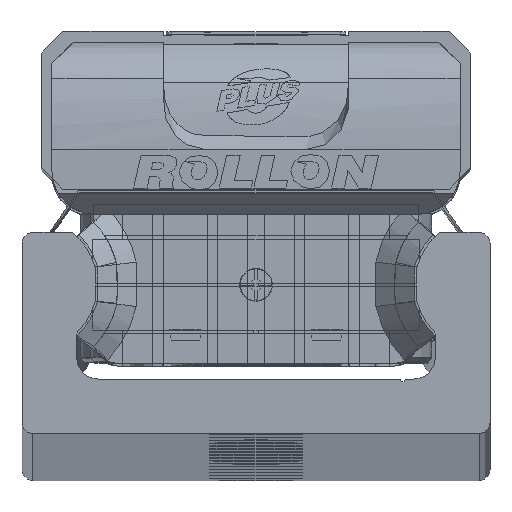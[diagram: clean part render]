
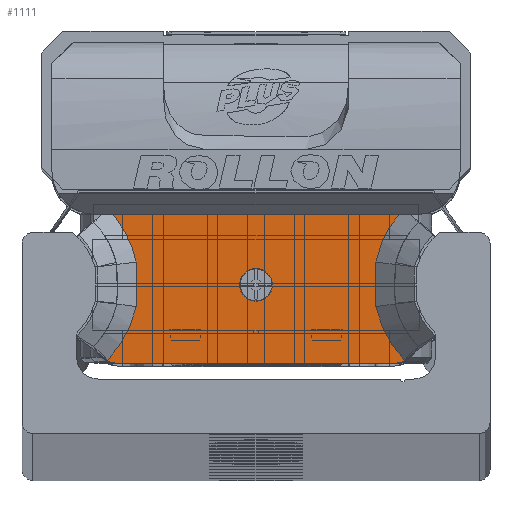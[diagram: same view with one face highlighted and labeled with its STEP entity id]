
A CAD part, top view. The second image highlights one B-rep face of the part: STEP entity #1111.
In plain terms, the highlighted planar face has unit normal (0, 0, 1) as drawn and (0, 0, -1) by its records, which use the part's own axes.
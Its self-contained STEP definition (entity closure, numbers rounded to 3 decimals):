
#1111 = ADVANCED_FACE( '', ( #2788, #2789 ), #2790, .F. );
#2788 = FACE_BOUND( '', #5206, .T. );
#2789 = FACE_OUTER_BOUND( '', #5207, .T. );
#2790 = PLANE( '', #5208 );
#5206 = EDGE_LOOP( '', ( #8347 ) );
#5207 = EDGE_LOOP( '', ( #8348, #8349, #8350, #8351, #8352, #8353, #8354, #8355, #8356, #8357, #8358, #8359 ) );
#5208 = AXIS2_PLACEMENT_3D( '', #8360, #8361, #8362 );
#8347 = ORIENTED_EDGE( '', *, *, #13894, .T. );
#8348 = ORIENTED_EDGE( '', *, *, #13895, .T. );
#8349 = ORIENTED_EDGE( '', *, *, #13837, .F. );
#8350 = ORIENTED_EDGE( '', *, *, #13896, .T. );
#8351 = ORIENTED_EDGE( '', *, *, #13619, .F. );
#8352 = ORIENTED_EDGE( '', *, *, #13816, .T. );
#8353 = ORIENTED_EDGE( '', *, *, #13897, .T. );
#8354 = ORIENTED_EDGE( '', *, *, #13898, .T. );
#8355 = ORIENTED_EDGE( '', *, *, #13899, .T. );
#8356 = ORIENTED_EDGE( '', *, *, #13900, .T. );
#8357 = ORIENTED_EDGE( '', *, *, #13901, .T. );
#8358 = ORIENTED_EDGE( '', *, *, #13902, .T. );
#8359 = ORIENTED_EDGE( '', *, *, #13340, .T. );
#8360 = CARTESIAN_POINT( '', ( 14.9, 7.35, -13.25 ) );
#8361 = DIRECTION( '', ( 0., 0., 1. ) );
#8362 = DIRECTION( '', ( 1., 0., 0. ) );
#13340 = EDGE_CURVE( '', #15762, #15760, #15763, .T. );
#13619 = EDGE_CURVE( '', #16254, #16255, #16256, .T. );
#13816 = EDGE_CURVE( '', #16254, #16587, #16589, .T. );
#13837 = EDGE_CURVE( '', #16621, #15805, #16623, .T. );
#13894 = EDGE_CURVE( '', #16715, #16715, #16716, .T. );
#13895 = EDGE_CURVE( '', #15760, #15805, #16717, .T. );
#13896 = EDGE_CURVE( '', #16621, #16255, #16718, .T. );
#13897 = EDGE_CURVE( '', #16587, #16719, #16720, .T. );
#13898 = EDGE_CURVE( '', #16719, #16721, #16722, .T. );
#13899 = EDGE_CURVE( '', #16721, #16723, #16724, .T. );
#13900 = EDGE_CURVE( '', #16723, #16725, #16726, .T. );
#13901 = EDGE_CURVE( '', #16725, #16727, #16728, .T. );
#13902 = EDGE_CURVE( '', #16727, #15762, #16729, .T. );
#15760 = VERTEX_POINT( '', #19305 );
#15762 = VERTEX_POINT( '', #19308 );
#15763 = B_SPLINE_CURVE_WITH_KNOTS( '', 2, ( #19309, #19310, #19311, #19312, #19313 ), .UNSPECIFIED., .F., .F., ( 3, 2, 3 ), ( 0., 0.5, 1. ), .UNSPECIFIED. );
#15805 = VERTEX_POINT( '', #19367 );
#16254 = VERTEX_POINT( '', #19974 );
#16255 = VERTEX_POINT( '', #19975 );
#16256 = CIRCLE( '', #19976, 2.5 );
#16587 = VERTEX_POINT( '', #20452 );
#16589 = B_SPLINE_CURVE_WITH_KNOTS( '', 1, ( #20455, #20456 ), .UNSPECIFIED., .F., .F., ( 2, 2 ), ( 0., 1. ), .UNSPECIFIED. );
#16621 = VERTEX_POINT( '', #20498 );
#16623 = CIRCLE( '', #20501, 2.5 );
#16715 = VERTEX_POINT( '', #20623 );
#16716 = CIRCLE( '', #20624, 1.5 );
#16717 = B_SPLINE_CURVE_WITH_KNOTS( '', 1, ( #20625, #20626 ), .UNSPECIFIED., .F., .F., ( 2, 2 ), ( 0., 1. ), .UNSPECIFIED. );
#16718 = LINE( '', #20627, #20628 );
#16719 = VERTEX_POINT( '', #20629 );
#16720 = B_SPLINE_CURVE_WITH_KNOTS( '', 2, ( #20630, #20631, #20632, #20633, #20634 ), .UNSPECIFIED., .F., .F., ( 3, 2, 3 ), ( 0., 0.5, 1. ), .UNSPECIFIED. );
#16721 = VERTEX_POINT( '', #20635 );
#16722 = B_SPLINE_CURVE_WITH_KNOTS( '', 2, ( #20636, #20637, #20638 ), .UNSPECIFIED., .F., .F., ( 3, 3 ), ( 0., 1. ), .UNSPECIFIED. );
#16723 = VERTEX_POINT( '', #20639 );
#16724 = B_SPLINE_CURVE_WITH_KNOTS( '', 2, ( #20640, #20641, #20642, #20643, #20644 ), .UNSPECIFIED., .F., .F., ( 3, 2, 3 ), ( 0., 0.5, 0.868 ), .UNSPECIFIED. );
#16725 = VERTEX_POINT( '', #20645 );
#16726 = LINE( '', #20646, #20647 );
#16727 = VERTEX_POINT( '', #20648 );
#16728 = B_SPLINE_CURVE_WITH_KNOTS( '', 2, ( #20649, #20650, #20651, #20652, #20653 ), .UNSPECIFIED., .F., .F., ( 3, 2, 3 ), ( 0.133, 0.5, 1. ), .UNSPECIFIED. );
#16729 = B_SPLINE_CURVE_WITH_KNOTS( '', 2, ( #20654, #20655, #20656 ), .UNSPECIFIED., .F., .F., ( 3, 3 ), ( 0., 1. ), .UNSPECIFIED. );
#19305 = CARTESIAN_POINT( '', ( 13.628, -6.965, -13.25 ) );
#19308 = CARTESIAN_POINT( '', ( 11.012, -2.045, -13.25 ) );
#19309 = CARTESIAN_POINT( '', ( 11.012, -2.045, -13.25 ) );
#19310 = CARTESIAN_POINT( '', ( 11.301, -3.43, -13.25 ) );
#19311 = CARTESIAN_POINT( '', ( 11.972, -4.69, -13.25 ) );
#19312 = CARTESIAN_POINT( '', ( 12.642, -5.95, -13.25 ) );
#19313 = CARTESIAN_POINT( '', ( 13.628, -6.965, -13.25 ) );
#19367 = CARTESIAN_POINT( '', ( 14.906, -5.717, -13.25 ) );
#19974 = CARTESIAN_POINT( '', ( -14.904, -5.718, -13.25 ) );
#19975 = CARTESIAN_POINT( '', ( -12.58, -7.3, -13.25 ) );
#19976 = AXIS2_PLACEMENT_3D( '', #24437, #24438, #24439 );
#20452 = CARTESIAN_POINT( '', ( -13.628, -6.965, -13.25 ) );
#20455 = CARTESIAN_POINT( '', ( -14.915, -5.713, -13.25 ) );
#20456 = CARTESIAN_POINT( '', ( -13.628, -6.965, -13.25 ) );
#20498 = CARTESIAN_POINT( '', ( 12.58, -7.3, -13.25 ) );
#20501 = AXIS2_PLACEMENT_3D( '', #24747, #24748, #24749 );
#20623 = CARTESIAN_POINT( '', ( 1.5, -0.05, -13.25 ) );
#20624 = AXIS2_PLACEMENT_3D( '', #24819, #24820, #24821 );
#20625 = CARTESIAN_POINT( '', ( 13.628, -6.965, -13.25 ) );
#20626 = CARTESIAN_POINT( '', ( 14.9, -5.728, -13.25 ) );
#20627 = CARTESIAN_POINT( '', ( 12.58, -7.3, -13.25 ) );
#20628 = VECTOR( '', #24822, 1000. );
#20629 = CARTESIAN_POINT( '', ( -11.012, -2.045, -13.25 ) );
#20630 = CARTESIAN_POINT( '', ( -13.628, -6.965, -13.25 ) );
#20631 = CARTESIAN_POINT( '', ( -12.638, -5.946, -13.25 ) );
#20632 = CARTESIAN_POINT( '', ( -11.97, -4.691, -13.25 ) );
#20633 = CARTESIAN_POINT( '', ( -11.303, -3.437, -13.25 ) );
#20634 = CARTESIAN_POINT( '', ( -11.012, -2.045, -13.25 ) );
#20635 = CARTESIAN_POINT( '', ( -11.012, 2.045, -13.25 ) );
#20636 = CARTESIAN_POINT( '', ( -11.012, -2.045, -13.25 ) );
#20637 = CARTESIAN_POINT( '', ( -10.888, 0., -13.25 ) );
#20638 = CARTESIAN_POINT( '', ( -11.012, 2.045, -13.25 ) );
#20639 = CARTESIAN_POINT( '', ( -13.119, 6.4, -13.25 ) );
#20640 = CARTESIAN_POINT( '', ( -11.012, 2.045, -13.25 ) );
#20641 = CARTESIAN_POINT( '', ( -11.302, 3.432, -13.25 ) );
#20642 = CARTESIAN_POINT( '', ( -11.967, 4.685, -13.25 ) );
#20643 = CARTESIAN_POINT( '', ( -12.456, 5.606, -13.25 ) );
#20644 = CARTESIAN_POINT( '', ( -13.119, 6.4, -13.25 ) );
#20645 = CARTESIAN_POINT( '', ( 13.12, 6.4, -13.25 ) );
#20646 = CARTESIAN_POINT( '', ( 14.9, 6.4, -13.25 ) );
#20647 = VECTOR( '', #24823, 1000. );
#20648 = CARTESIAN_POINT( '', ( 11.012, 2.045, -13.25 ) );
#20649 = CARTESIAN_POINT( '', ( 13.119, 6.4, -13.25 ) );
#20650 = CARTESIAN_POINT( '', ( 12.459, 5.608, -13.25 ) );
#20651 = CARTESIAN_POINT( '', ( 11.968, 4.684, -13.25 ) );
#20652 = CARTESIAN_POINT( '', ( 11.301, 3.427, -13.25 ) );
#20653 = CARTESIAN_POINT( '', ( 11.012, 2.045, -13.25 ) );
#20654 = CARTESIAN_POINT( '', ( 11.012, 2.045, -13.25 ) );
#20655 = CARTESIAN_POINT( '', ( 10.888, 0., -13.25 ) );
#20656 = CARTESIAN_POINT( '', ( 11.012, -2.045, -13.25 ) );
#24437 = CARTESIAN_POINT( '', ( -12.58, -4.8, -13.25 ) );
#24438 = DIRECTION( '', ( 0., 0., 1. ) );
#24439 = DIRECTION( '', ( 1., 0., 0. ) );
#24747 = CARTESIAN_POINT( '', ( 12.58, -4.8, -13.25 ) );
#24748 = DIRECTION( '', ( 0., 0., 1. ) );
#24749 = DIRECTION( '', ( 1., 0., 0. ) );
#24819 = CARTESIAN_POINT( '', ( 0., -0.05, -13.25 ) );
#24820 = DIRECTION( '', ( 0., 0., 1. ) );
#24821 = DIRECTION( '', ( 1., 0., 0. ) );
#24822 = DIRECTION( '', ( -1., 0., 0. ) );
#24823 = DIRECTION( '', ( 1., 0., 0. ) );
